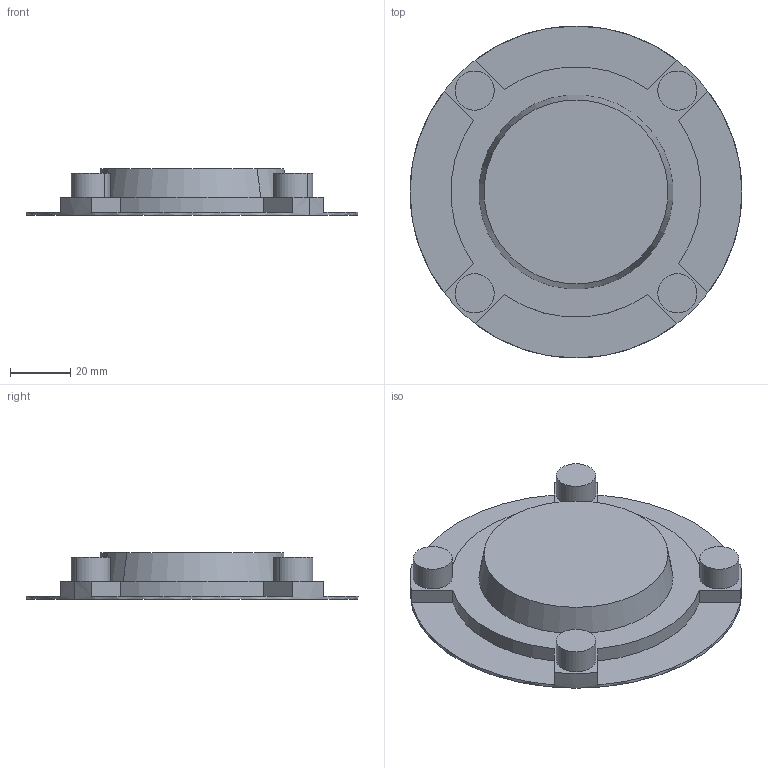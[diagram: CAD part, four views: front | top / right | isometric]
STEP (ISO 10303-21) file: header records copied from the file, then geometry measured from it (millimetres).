
FILE_DESCRIPTION(/* description */ (''),/* implementation_level */ '2;1');
FILE_NAME(/* name */ '8_COPRIMOZZO NMRV-P063',/* time_stamp */ '2025-10-09T14:56:45+02:00',/* author */ (''),/* organization */ (''),/* preprocessor_version */ 'ST-DEVELOPER v19.2',/* originating_system */ 'Rhino 8.23',/* authorisation */ '');
FILE_SCHEMA (('CONFIG_CONTROL_DESIGN'));
Length unit declared in the file: millimetre
Products named in the file (2): Document; Corona 63-p
Bounding box: 110 x 110 x 15.5 mm (x, y, z)
Volume: 74112.3 mm3; surface area: 24080.8 mm2
Topology: 1 solids, 1 shells, 35 faces, 84 edges, 56 vertices
Faces by surface type: plane 19, cylinder 14, bspline 2
Entity records: 1368 total; most frequent: CARTESIAN_POINT 321, ORIENTED_EDGE 168, DIRECTION 121, EDGE_CURVE 84, AXIS2_PLACEMENT_3D 77, VERTEX_POINT 56, B_SPLINE_CURVE_WITH_KNOTS 44, EDGE_LOOP 40
